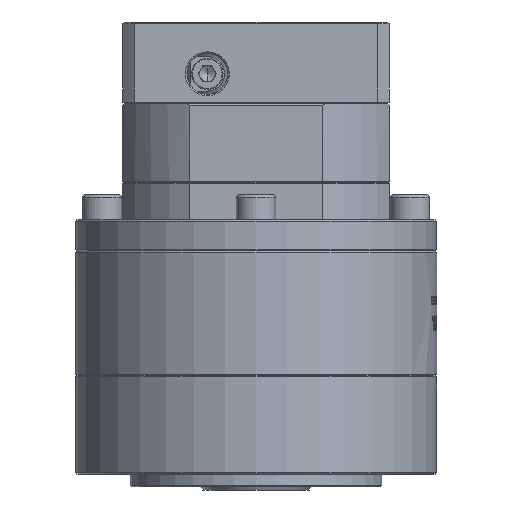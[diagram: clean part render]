
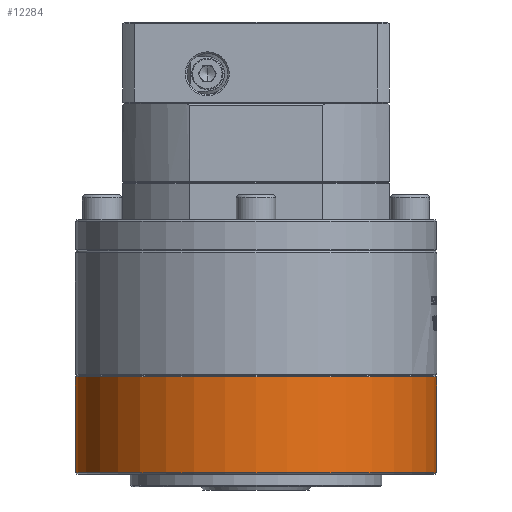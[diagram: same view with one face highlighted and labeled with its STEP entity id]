
A CAD part, left-side view. The second image highlights one B-rep face of the part: STEP entity #12284.
In plain terms, the highlighted cylindrical face has radius 57.5 mm (diameter 115 mm), a partial arc.
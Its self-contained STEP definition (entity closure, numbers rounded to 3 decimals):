
#1028 = DIRECTION ( 'NONE',  ( 0., 0., 1. ) ) ;
#2318 = VECTOR ( 'NONE', #62615, 1000. ) ;
#5019 = VERTEX_POINT ( 'NONE', #34890 ) ;
#7502 = CARTESIAN_POINT ( 'NONE',  ( 96.628, -46.188, -85.713 ) ) ;
#12284 = ADVANCED_FACE ( 'NONE', ( #61839 ), #36957, .T. ) ;
#13543 = ORIENTED_EDGE ( 'NONE', *, *, #95421, .F. ) ;
#17241 = DIRECTION ( 'NONE',  ( 0., -1., 0. ) ) ;
#17742 = VECTOR ( 'NONE', #1028, 1000. ) ;
#20154 = VERTEX_POINT ( 'NONE', #96536 ) ;
#20616 = CIRCLE ( 'NONE', #97901, 57.5 ) ;
#25579 = CARTESIAN_POINT ( 'NONE',  ( 96.628, 11.312, -67.713 ) ) ;
#31519 = CARTESIAN_POINT ( 'NONE',  ( 96.628, -46.188, -67.713 ) ) ;
#33343 = CARTESIAN_POINT ( 'NONE',  ( 96.628, 11.312, -85.713 ) ) ;
#34890 = CARTESIAN_POINT ( 'NONE',  ( 96.628, -103.688, -98.213 ) ) ;
#36957 = CYLINDRICAL_SURFACE ( 'NONE', #43489, 57.5 ) ;
#42462 = AXIS2_PLACEMENT_3D ( 'NONE', #90297, #73657, #17241 ) ;
#43489 = AXIS2_PLACEMENT_3D ( 'NONE', #7502, #81821, #62759 ) ;
#46460 = EDGE_LOOP ( 'NONE', ( #94669, #117056, #91281, #13543 ) ) ;
#47762 = EDGE_CURVE ( 'NONE', #53702, #95149, #69213, .T. ) ;
#48935 = DIRECTION ( 'NONE',  ( 0., 0., 1. ) ) ;
#53702 = VERTEX_POINT ( 'NONE', #71101 ) ;
#58249 = EDGE_CURVE ( 'NONE', #53702, #5019, #74664, .T. ) ;
#61839 = FACE_OUTER_BOUND ( 'NONE', #46460, .T. ) ;
#62615 = DIRECTION ( 'NONE',  ( 0., 0., 1. ) ) ;
#62759 = DIRECTION ( 'NONE',  ( 0., -1., 0. ) ) ;
#69213 = LINE ( 'NONE', #33343, #2318 ) ;
#71101 = CARTESIAN_POINT ( 'NONE',  ( 96.628, 11.312, -98.213 ) ) ;
#72965 = LINE ( 'NONE', #109451, #17742 ) ;
#73657 = DIRECTION ( 'NONE',  ( 0., 0., 1. ) ) ;
#74664 = CIRCLE ( 'NONE', #42462, 57.5 ) ;
#81821 = DIRECTION ( 'NONE',  ( 0., 0., 1. ) ) ;
#90297 = CARTESIAN_POINT ( 'NONE',  ( 96.628, -46.188, -98.213 ) ) ;
#91281 = ORIENTED_EDGE ( 'NONE', *, *, #106859, .T. ) ;
#94669 = ORIENTED_EDGE ( 'NONE', *, *, #47762, .F. ) ;
#95149 = VERTEX_POINT ( 'NONE', #25579 ) ;
#95421 = EDGE_CURVE ( 'NONE', #95149, #20154, #20616, .T. ) ;
#96450 = DIRECTION ( 'NONE',  ( 0., 1., 0. ) ) ;
#96536 = CARTESIAN_POINT ( 'NONE',  ( 96.628, -103.688, -67.713 ) ) ;
#97901 = AXIS2_PLACEMENT_3D ( 'NONE', #31519, #48935, #96450 ) ;
#106859 = EDGE_CURVE ( 'NONE', #5019, #20154, #72965, .T. ) ;
#109451 = CARTESIAN_POINT ( 'NONE',  ( 96.628, -103.688, -85.713 ) ) ;
#117056 = ORIENTED_EDGE ( 'NONE', *, *, #58249, .T. ) ;
